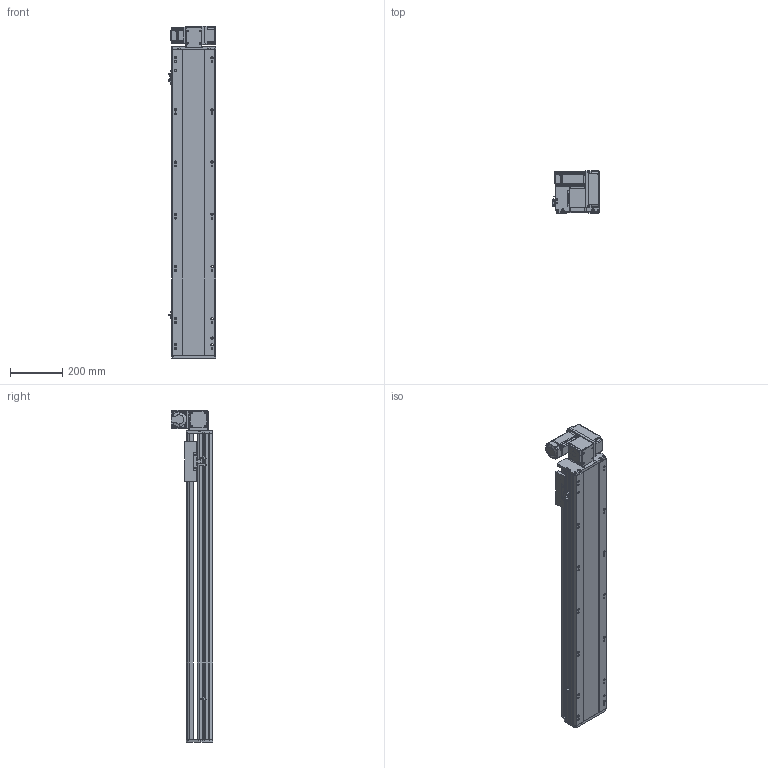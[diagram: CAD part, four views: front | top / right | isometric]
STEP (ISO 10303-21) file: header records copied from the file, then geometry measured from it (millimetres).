
FILE_DESCRIPTION (( 'STEP AP214' ), '1' );
FILE_NAME ('RTB17S-XX-900-RW-M40-C4.STEP', '2025-12-11T08:53:08', ( '' ), ( '' ), 'SwSTEP 2.0', 'SolidWorks 2018', '' );
FILE_SCHEMA (( 'AUTOMOTIVE_DESIGN' ));
Length unit declared in the file: millimetre
Products named in the file (14): RTB17S-XX-900-RW-M40-C4; RTH13-BL-012覜茼え俋离^RTB17S-XX-XX-RW-M40-C4; RTB17S-RW-々湍釱蚾饜-400W^RTB17S-XX-XX-RW-M40-C4; OMRON EE-SX672 传感器^RTB17S-XX-XX-RW-M40-C4; RTB14-L-018P^RTB17S-RW-々湍釱蚾饜-400W_RTB17S-XX-XX-RW-M40-C4; RTB14-L-005P--轴承塑胶压盖^RTB17S-RW-皮带座装配-400W_RTB17S-XX-XX-RW-M40-C4; 400W侜督萇儂^RTB17S-XX-XX-RW-M40-C4; RTB17S-L-001耜醱啣^RTB17S-XX-XX-RW-M40-C4; RMP17S-L-014-T20--々湍釱^RTB17S-RW-々湍釱蚾饜-400W_RTB17S-XX-XX-RW-M40-C4; RTB14-L-008-M20--萇儂啣^RTB17S-RW-々湍釱蚾饜-400W_RTB17S-XX-XX-RW-M40-C4; RTB17-R-011菁釱^RTB17S-XX-XX-RW-M40-C4; RTB17S-L-004佪裝蹟譫蟀諉釱^RTB17S-XX-XX-RW-M40-C4; RTB14-L-017P^RTB17S-RW-々湍釱蚾饜-400W_RTB17S-XX-XX-RW-M40-C4; RTB17S-L-007奻裔^RTB17S-XX-XX-RW-M40-C4
Assembly tree (16 placements, depth 3):
  RTB17S-XX-900-RW-M40-C4
    RTB17-R-011菁釱^RTB17S-XX-XX-RW-M40-C4
    RTB17S-L-007奻裔^RTB17S-XX-XX-RW-M40-C4
    OMRON EE-SX672 传感器^RTB17S-XX-XX-RW-M40-C4  x3
    RTB17S-L-001耜醱啣^RTB17S-XX-XX-RW-M40-C4
    400W侜督萇儂^RTB17S-XX-XX-RW-M40-C4
    RTB17S-L-004佪裝蹟譫蟀諉釱^RTB17S-XX-XX-RW-M40-C4
    RTH13-BL-012覜茼え俋离^RTB17S-XX-XX-RW-M40-C4
    RTB17S-RW-々湍釱蚾饜-400W^RTB17S-XX-XX-RW-M40-C4
      RMP17S-L-014-T20--々湍釱^RTB17S-RW-々湍釱蚾饜-400W_RTB17S-XX-XX-RW-M40-C4
      RTB14-L-005P--轴承塑胶压盖^RTB17S-RW-皮带座装配-400W_RTB17S-XX-XX-RW-M40-C4
      RTB14-L-008-M20--萇儂啣^RTB17S-RW-々湍釱蚾饜-400W_RTB17S-XX-XX-RW-M40-C4
      RTB14-L-017P^RTB17S-RW-々湍釱蚾饜-400W_RTB17S-XX-XX-RW-M40-C4  x2
      RTB14-L-018P^RTB17S-RW-々湍釱蚾饜-400W_RTB17S-XX-XX-RW-M40-C4
Bounding box: 183.5 x 160.5 x 1272.5 mm (x, y, z)
Volume: 11556255 mm3; surface area: 1410035 mm2
Topology: 15 solids, 15 shells, 2205 faces, 6087 edges, 3969 vertices
Faces by surface type: plane 1068, cylinder 689, bspline 301, cone 139, torus 8
Entity records: 62633 total; most frequent: CARTESIAN_POINT 17492, ORIENTED_EDGE 9018, DIRECTION 8396, EDGE_CURVE 4509, VERTEX_POINT 2957, AXIS2_PLACEMENT_3D 2887, VECTOR 2622, LINE 2622
